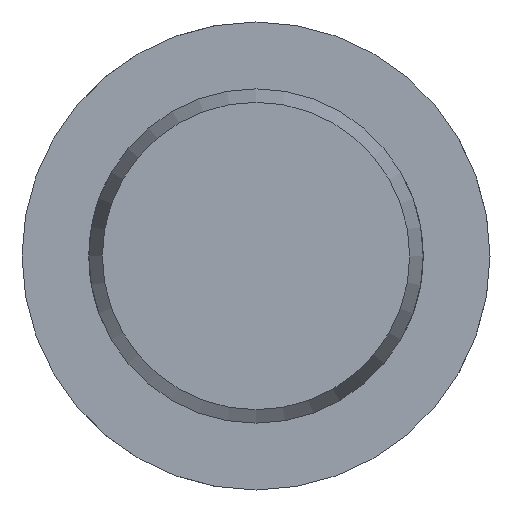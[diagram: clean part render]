
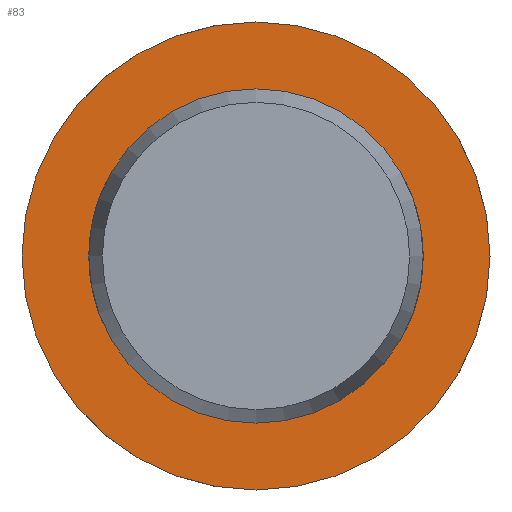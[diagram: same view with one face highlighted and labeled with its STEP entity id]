
A CAD part, left-side view. The second image highlights one B-rep face of the part: STEP entity #83.
In plain terms, the highlighted planar face has unit normal (-1, 0, 0).
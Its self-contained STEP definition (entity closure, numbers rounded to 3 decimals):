
#83 = ADVANCED_FACE( '', ( #129, #130 ), #131, .F. );
#129 = FACE_OUTER_BOUND( '', #208, .T. );
#130 = FACE_BOUND( '', #209, .T. );
#131 = PLANE( '', #210 );
#208 = EDGE_LOOP( '', ( #325 ) );
#209 = EDGE_LOOP( '', ( #326 ) );
#210 = AXIS2_PLACEMENT_3D( '', #327, #328, #329 );
#325 = ORIENTED_EDGE( '', *, *, #493, .F. );
#326 = ORIENTED_EDGE( '', *, *, #483, .T. );
#327 = CARTESIAN_POINT( '', ( 80.5, 10., 0. ) );
#328 = DIRECTION( '', ( 1., 0., 0. ) );
#329 = DIRECTION( '', ( 0., 1., 0. ) );
#483 = EDGE_CURVE( '', #554, #554, #555, .T. );
#493 = EDGE_CURVE( '', #572, #572, #573, .T. );
#554 = VERTEX_POINT( '', #759 );
#555 = CIRCLE( '', #760, 10. );
#572 = VERTEX_POINT( '', #942 );
#573 = CIRCLE( '', #943, 14. );
#759 = CARTESIAN_POINT( '', ( 80.5, 10., 0. ) );
#760 = AXIS2_PLACEMENT_3D( '', #1006, #1007, #1008 );
#942 = CARTESIAN_POINT( '', ( 80.5, 14., 0. ) );
#943 = AXIS2_PLACEMENT_3D( '', #1027, #1028, #1029 );
#1006 = CARTESIAN_POINT( '', ( 80.5, 0., 0. ) );
#1007 = DIRECTION( '', ( 1., 0., 0. ) );
#1008 = DIRECTION( '', ( 0., 1., 0. ) );
#1027 = CARTESIAN_POINT( '', ( 80.5, 0., 0. ) );
#1028 = DIRECTION( '', ( 1., 0., 0. ) );
#1029 = DIRECTION( '', ( 0., 1., 0. ) );
